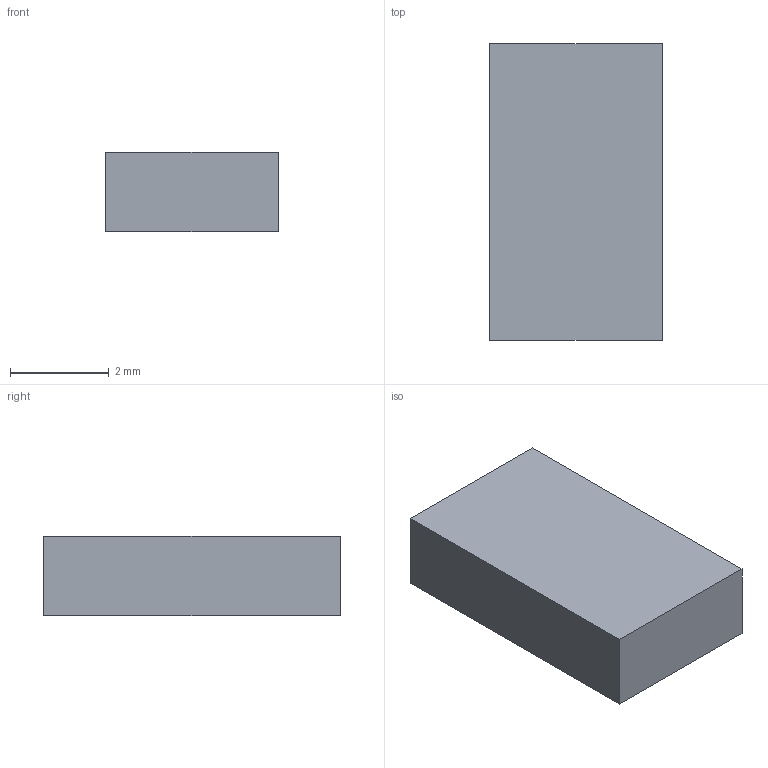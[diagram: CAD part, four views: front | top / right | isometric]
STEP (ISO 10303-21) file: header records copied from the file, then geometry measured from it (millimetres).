
FILE_DESCRIPTION(/* description */ ('STEP AP242 Edition 2','CAx-IF Rec.Pracs.---Representation and Presentation of Product Manufacturing Information (PMI)---4.0---2014-10-13','CAx-IF Rec.Pracs.---3D Tessellated Geometry---0.4---2014-09-14','2;1','CAx-IF Rec.Pracs.---User Defined Attributes---1.5---2016-08-15'),/* implementation_level */ '2;1');
FILE_NAME(/* name */ 'Drone Layout - Surface 257',/* time_stamp */ '2026-10-04T22:22:54Z',/* author */ (''),/* organization */ (''),/* preprocessor_version */ 'ST-DEVELOPER v20',/* originating_system */ 'ONSHAPE BY PTC INC, 1.221',/* authorisation */ ' ');
FILE_SCHEMA (('AP242_MANAGED_MODEL_BASED_3D_ENGINEERING_MIM_LF { 1 0 10303 442 3 1 4 }'));
Length unit declared in the file: metre
Products named in the file (1): vreg:1__Body2
Bounding box: 3.5 x 6 x 1.6 mm (x, y, z)
Volume: 33.6 mm3; surface area: 72.4 mm2
Topology: 1 solids, 1 shells, 6 faces, 12 edges, 8 vertices
Faces by surface type: plane 6
Entity records: 169 total; most frequent: CARTESIAN_POINT 27, DIRECTION 26, ORIENTED_EDGE 24, EDGE_CURVE 12, LINE 12, VECTOR 12, VERTEX_POINT 8, AXIS2_PLACEMENT_3D 7
